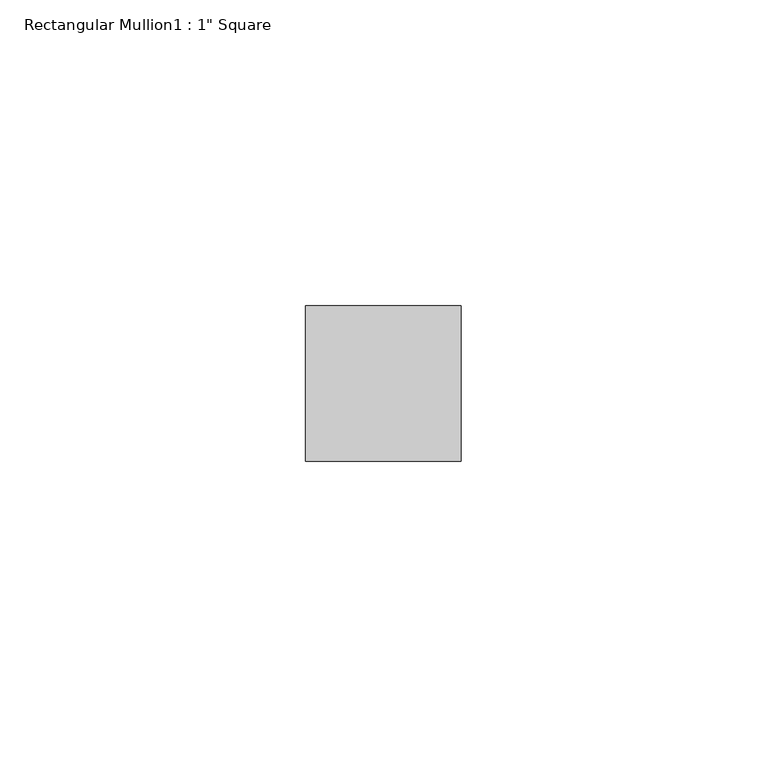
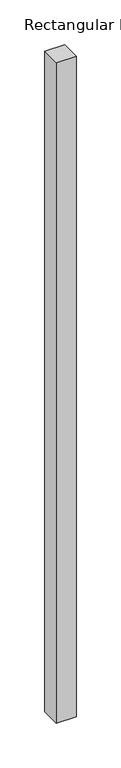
"""IFC4 building model written with IfcOpenShell, lengths in millimetres: member geometry."""

from ifc_helpers import new_model, si_unit, frame, origin, place, context, project, spatial, polyline, outline, extrude, source, transform, mapped, element, save


def member_f846ac2e(model_context):
    return source(origin(), model_context, "Body", "SweptSolid", [
        extrude(outline(polyline([(0.0, -19.05), (0.0, -44.45), (-25.4, -44.45), (-25.4, -19.05), (0.0, -19.05)])), frame((0.0, 0.0, -897.3298259), z_axis=(0.0, 0.0, 1.0), x_axis=(1.0, 0.0, 0.0)), (0.0, 0.0, 1.0), 897.3298259),
    ])


if __name__ == "__main__":
    model = new_model("IFC4")
    model_context = context("Model", 3, world=origin())
    ifc_project = project(units=[si_unit("LENGTHUNIT", "METRE", prefix="MILLI")], contexts=[model_context])
    site = spatial("IfcSite", under=ifc_project)
    building = spatial("IfcBuilding", under=site)
    placement = place(None, origin())
    member_shape = member_f846ac2e(model_context)
    element("IfcMember", 1, ObjectType="Rectangular Mullion1 : 1\" Square", at=placement, inside=building, context=model_context, shape_type="MappedRepresentation", body=[
        mapped(member_shape, transform((0.0, 0.0, 0.0), x_axis=(1.0, 0.0, 0.0), y_axis=(0.0, 1.0, 0.0), z_axis=(0.0, 0.0, 1.0))),
    ])
    save(model, "model.ifc")
